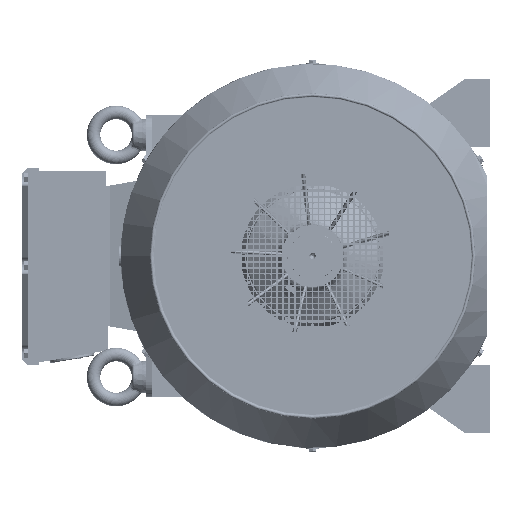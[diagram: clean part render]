
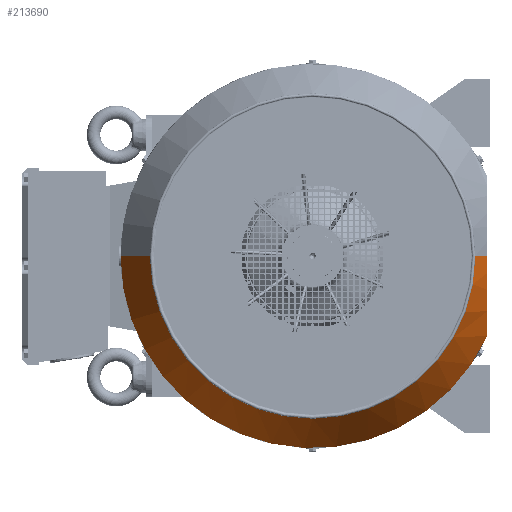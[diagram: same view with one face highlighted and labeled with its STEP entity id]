
A CAD part, left-side view. The second image highlights one B-rep face of the part: STEP entity #213690.
In plain terms, the highlighted conical face has half-angle 30 degrees and reference radius 341 mm.
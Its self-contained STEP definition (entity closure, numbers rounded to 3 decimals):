
#183094 = DIRECTION ( 'NONE',  ( 0., 0., -1. ) ) ;
#183096 = DIRECTION ( 'NONE',  ( 0., -1., 0. ) ) ;
#183098 = CARTESIAN_POINT ( 'NONE',  ( 0., 312., 0. ) ) ;
#183099 = AXIS2_PLACEMENT_3D ( 'NONE', #183098, #183096, #183094 ) ;
#183101 = CIRCLE ( 'NONE', #183099, 289. ) ;
#183239 = CARTESIAN_POINT ( 'NONE',  ( 0., 312., -289. ) ) ;
#183314 = CARTESIAN_POINT ( 'NONE',  ( 0., 221.933, 341. ) ) ;
#183316 = LINE ( 'NONE', #183314, #183456 ) ;
#183343 = DIRECTION ( 'NONE',  ( 0., 0., -1. ) ) ;
#183345 = DIRECTION ( 'NONE',  ( 0., -1., 0. ) ) ;
#183347 = CARTESIAN_POINT ( 'NONE',  ( 0., 221.933, 0. ) ) ;
#183349 = AXIS2_PLACEMENT_3D ( 'NONE', #183347, #183345, #183343 ) ;
#183356 = CONICAL_SURFACE ( 'NONE', #183349, 341., 0.524 ) ;
#183357 = FACE_OUTER_BOUND ( 'NONE', #213693, .T. ) ;
#183416 = CARTESIAN_POINT ( 'NONE',  ( 142.06, 221.933, -310. ) ) ;
#183418 = DIRECTION ( 'NONE',  ( 0., 0., -1. ) ) ;
#183420 = DIRECTION ( 'NONE',  ( 0., -1., 0. ) ) ;
#183422 = CARTESIAN_POINT ( 'NONE',  ( 0., 221.933, 0. ) ) ;
#183424 = AXIS2_PLACEMENT_3D ( 'NONE', #183422, #183420, #183418 ) ;
#183426 = CIRCLE ( 'NONE', #183424, 341. ) ;
#183440 = CARTESIAN_POINT ( 'NONE',  ( 0., 221.933, 341. ) ) ;
#183455 = DIRECTION ( 'NONE',  ( 0., -0.866, 0.5 ) ) ;
#183456 = VECTOR ( 'NONE', #183455, 1000. ) ;
#183484 = DIRECTION ( 'NONE',  ( 0., -0.866, -0.5 ) ) ;
#183485 = VECTOR ( 'NONE', #183484, 1000. ) ;
#183487 = CARTESIAN_POINT ( 'NONE',  ( 0., 221.933, -341. ) ) ;
#183489 = LINE ( 'NONE', #183487, #183485 ) ;
#183518 = CARTESIAN_POINT ( 'NONE',  ( 0., 312., 289. ) ) ;
#183989 = CARTESIAN_POINT ( 'NONE',  ( 0., 275.627, -310. ) ) ;
#183991 = CARTESIAN_POINT ( 'NONE',  ( 12.784, 275.627, -310. ) ) ;
#183993 = CARTESIAN_POINT ( 'NONE',  ( 25.535, 274.252, -310. ) ) ;
#183995 = CARTESIAN_POINT ( 'NONE',  ( 39.842, 271.218, -310. ) ) ;
#183997 = CARTESIAN_POINT ( 'NONE',  ( 41.43, 270.86, -310. ) ) ;
#183999 = CARTESIAN_POINT ( 'NONE',  ( 44.588, 270.108, -310. ) ) ;
#184001 = CARTESIAN_POINT ( 'NONE',  ( 46.16, 269.714, -310. ) ) ;
#184003 = CARTESIAN_POINT ( 'NONE',  ( 50.852, 268.477, -310. ) ) ;
#184005 = CARTESIAN_POINT ( 'NONE',  ( 53.95, 267.581, -310. ) ) ;
#184006 = CARTESIAN_POINT ( 'NONE',  ( 63.164, 264.695, -310. ) ) ;
#184008 = CARTESIAN_POINT ( 'NONE',  ( 69.196, 262.504, -310. ) ) ;
#184010 = CARTESIAN_POINT ( 'NONE',  ( 81.071, 257.659, -310. ) ) ;
#184011 = CARTESIAN_POINT ( 'NONE',  ( 86.913, 255.005, -310. ) ) ;
#184013 = CARTESIAN_POINT ( 'NONE',  ( 98.43, 249.292, -310. ) ) ;
#184015 = CARTESIAN_POINT ( 'NONE',  ( 104.106, 246.232, -310. ) ) ;
#184017 = CARTESIAN_POINT ( 'NONE',  ( 111.108, 242.186, -310. ) ) ;
#184019 = CARTESIAN_POINT ( 'NONE',  ( 112.505, 241.365, -310. ) ) ;
#184021 = CARTESIAN_POINT ( 'NONE',  ( 115.285, 239.704, -310. ) ) ;
#184022 = CARTESIAN_POINT ( 'NONE',  ( 116.667, 238.865, -310. ) ) ;
#184024 = CARTESIAN_POINT ( 'NONE',  ( 120.792, 236.323, -310. ) ) ;
#184026 = CARTESIAN_POINT ( 'NONE',  ( 123.512, 234.595, -310. ) ) ;
#184040 = CARTESIAN_POINT ( 'NONE',  ( 131.592, 229.318, -310. ) ) ;
#184042 = CARTESIAN_POINT ( 'NONE',  ( 136.871, 225.677, -310. ) ) ;
#184044 = CARTESIAN_POINT ( 'NONE',  ( 142.06, 221.933, -310. ) ) ;
#184048 = CARTESIAN_POINT ( 'NONE',  ( 0., 275.627, -310. ) ) ;
#184050 = B_SPLINE_CURVE_WITH_KNOTS ( 'NONE', 3,
 ( #184044, #184042, #184040, #184026, #184024, #184022, #184021, #184019, #184017, #184015, #184013, #184011, #184010, #184008, #184006, #184005, #184003, #184001, #183999, #183997, #183995, #183993, #183991, #183989 ),
 .UNSPECIFIED., .F., .F.,
 ( 4, 2, 2, 2, 2, 2, 2, 2, 2, 2, 2, 4 ),
 ( 0.159, 0.178, 0.188, 0.192, 0.197, 0.216, 0.235, 0.255, 0.264, 0.269, 0.274, 0.312 ),
 .UNSPECIFIED. ) ;
#213603 = EDGE_CURVE ( 'NONE', #213604, #213738, #183101, .T. ) ;
#213604 = VERTEX_POINT ( 'NONE', #183239 ) ;
#213690 = ADVANCED_FACE ( 'NONE', ( #183357 ), #183356, .T. ) ;
#213693 = EDGE_LOOP ( 'NONE', ( #213696, #213701, #213715, #213884, #213742 ) ) ;
#213696 = ORIENTED_EDGE ( 'NONE', *, *, #213603, .T. ) ;
#213701 = ORIENTED_EDGE ( 'NONE', *, *, #213705, .T. ) ;
#213705 = EDGE_CURVE ( 'NONE', #213738, #213709, #183316, .T. ) ;
#213709 = VERTEX_POINT ( 'NONE', #183440 ) ;
#213715 = ORIENTED_EDGE ( 'NONE', *, *, #213719, .F. ) ;
#213719 = EDGE_CURVE ( 'NONE', #213720, #213709, #183426, .T. ) ;
#213720 = VERTEX_POINT ( 'NONE', #183416 ) ;
#213738 = VERTEX_POINT ( 'NONE', #183518 ) ;
#213742 = ORIENTED_EDGE ( 'NONE', *, *, #213751, .F. ) ;
#213751 = EDGE_CURVE ( 'NONE', #213604, #213891, #183489, .T. ) ;
#213884 = ORIENTED_EDGE ( 'NONE', *, *, #213890, .T. ) ;
#213890 = EDGE_CURVE ( 'NONE', #213720, #213891, #184050, .T. ) ;
#213891 = VERTEX_POINT ( 'NONE', #184048 ) ;
